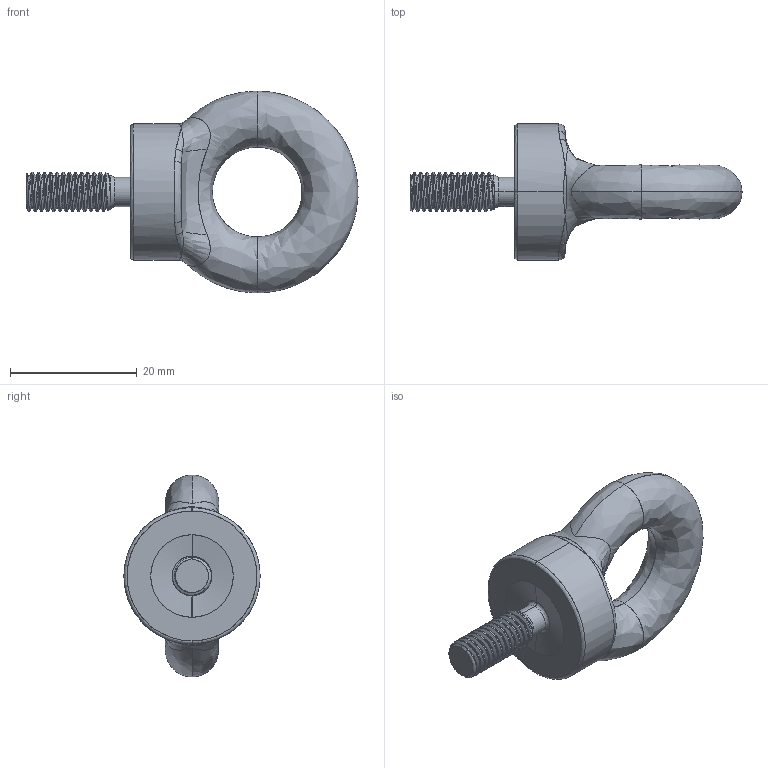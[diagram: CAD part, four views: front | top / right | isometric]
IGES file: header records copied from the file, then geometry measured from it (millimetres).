
Start section: SolidWorks IGES file using analytic representation for surfaces
Global section: file name: C:\Users\Brenton\Documents\Townley\Eye Bolts\Imperial\EBBSF250\EBBSF250.IGS; native system: SolidWorks 2012; preprocessor: SolidWorks 2012; author: Brenton; date: 140314.123503; units: millimetre
Bounding box: 52.4 x 21.5 x 31.85 mm (x, y, z)
Surface area: 3210.8 mm2 (no closed solid volume)
Topology: 0 solids, 0 shells, 69 faces, 1139 edges, 1131 vertices
Faces by surface type: bspline 35, revolution 34
